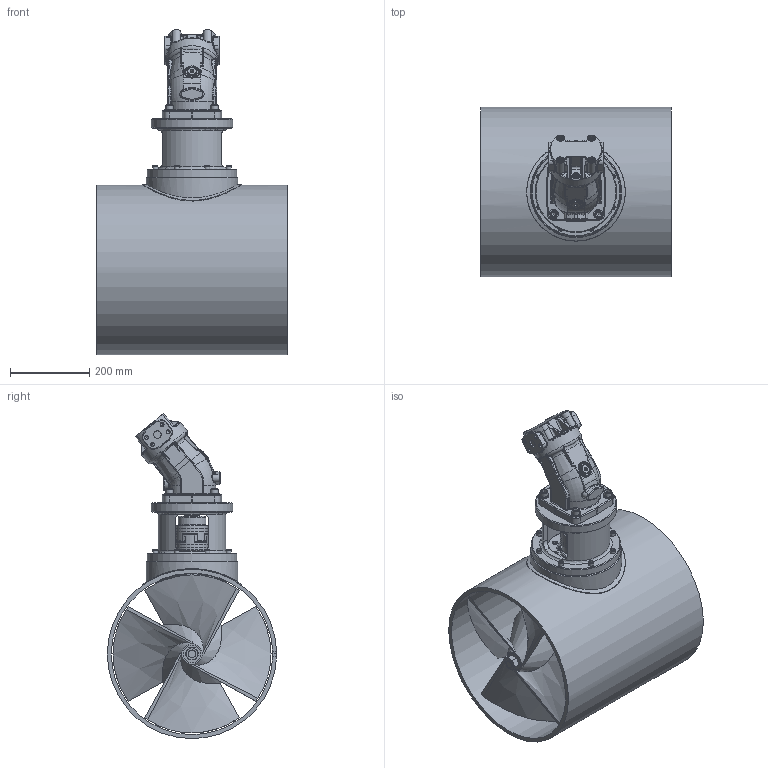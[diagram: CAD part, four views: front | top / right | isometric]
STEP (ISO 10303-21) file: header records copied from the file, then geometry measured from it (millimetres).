
FILE_DESCRIPTION(/* description */ (''),/* implementation_level */ '2;1');
FILE_NAME(/* name */ 'Q:\THRUSTERS\THRUSTER SALES & SUPPORT DOCS\THRUSTER Sales\H-T\H-0400-T\H-0400-T.stp',/* time_stamp */ '2020-03-04T15:32:06+00:00',/* author */ ('Jordan.Griffith'),/* organization */ (''),/* preprocessor_version */ 'ST-DEVELOPER v17',/* originating_system */ 'Autodesk Inventor 2019',/* authorisation */ '');
FILE_SCHEMA (('AUTOMOTIVE_DESIGN { 1 0 10303 214 3 1 1 }'));
Products named in the file (1): H-0400-T_Shrinkwrap_1
Bounding box: 480 x 426.4 x 818.82 mm (x, y, z)
Volume: 18600351.5 mm3; surface area: 3310052.5 mm2
Topology: 58 solids, 58 shells, 2357 faces, 6214 edges, 4062 vertices
Faces by surface type: cylinder 873, plane 668, bspline 353, cone 264, torus 189, sphere 10
Full cylindrical faces by diameter (mm): 2 x4, 3.242 x2, 3.3 x8, 3.5 x2, 4 x4, 4.5 x8, 6 x8, 6.647 x4, 6.76 x32, 7 x4, 8 x18, 8.3 x8, 8.5 x36, 8.8 x20, 10.27 x1, 12 x5, 12.4 x4, 13 x19, 13.5 x16, 14 x12, 14.95 x2, 16 x6, 18 x11, 18.5 x4, 19 x2, 20 x2, 23.9 x1, 24 x4, 29.6 x1, 30 x3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
Entity records: 108215 total; most frequent: CARTESIAN_POINT 48592, ORIENTED_EDGE 12210, DIRECTION 11891, EDGE_CURVE 6105, AXIS2_PLACEMENT_3D 4977, VERTEX_POINT 4062, CIRCLE 2908, EDGE_LOOP 2745
